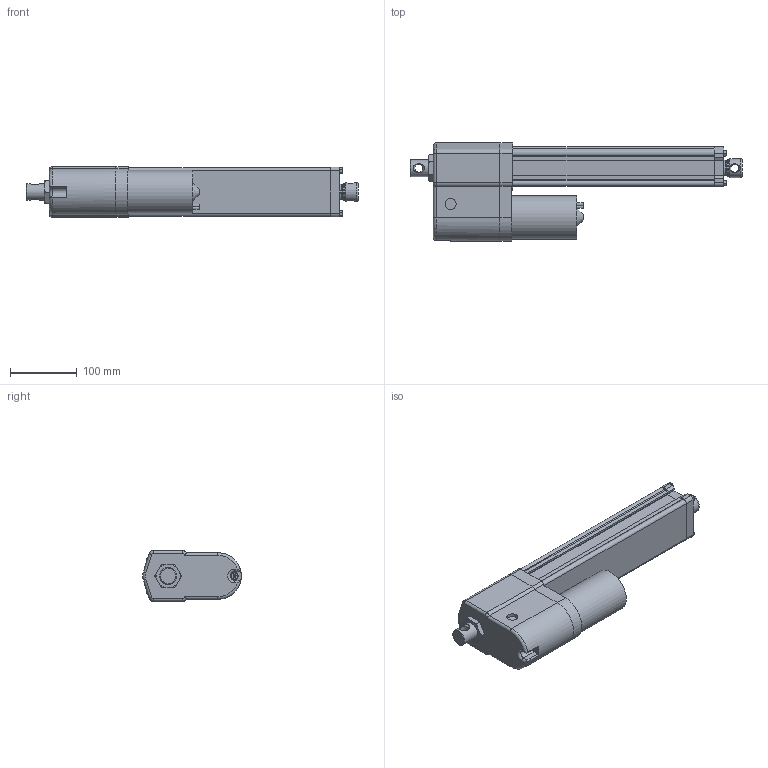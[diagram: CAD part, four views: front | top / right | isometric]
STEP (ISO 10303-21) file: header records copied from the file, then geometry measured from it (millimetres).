
FILE_DESCRIPTION( ( 'STEP AP203' ), '1' );
FILE_NAME( 'p:/temp/worker_343/temp/exporttempdir_696_1276_e8vW4/format_0/DA24-21B65M20M0NPO-AMM.stp', '2020-04-12T18:22:09', ( 'License CC BY-ND 4.0' ), ( 'CADENAS' ), ' ', 'PARTsolutions', ' ' );
FILE_SCHEMA( ( 'CONFIG_CONTROL_DESIGN' ) );
Length unit declared in the file: millimetre
Products named in the file (8): DA24-21B65M20M0NPO-AMM; _ELECTRAK-LA14-DA24-21B65MM0NPO-20M-EU-REAR; _Electrak-10-EU-RA-D602700; _D602768eu; _ELECTRAK-LA14-DA24--MOTOR; _DA24-21B65M20M0NPOAMMtube; _ELECTRAK-LA14-DA24--20-PLATE; _ELECTRAK-LA14-DA24--2021B65MNPOM-ROD
Assembly tree (7 placements, depth 2):
  DA24-21B65M20M0NPO-AMM
    _ELECTRAK-LA14-DA24-21B65MM0NPO-20M-EU-REAR
    _Electrak-10-EU-RA-D602700
    _D602768eu
    _ELECTRAK-LA14-DA24--MOTOR
    _DA24-21B65M20M0NPOAMMtube
    _ELECTRAK-LA14-DA24--20-PLATE
    _ELECTRAK-LA14-DA24--2021B65MNPOM-ROD
Bounding box: 498.95 x 148 x 76.2 mm (x, y, z)
Volume: 2061645 mm3; surface area: 364399.5 mm2
Topology: 7 solids, 8 shells, 378 faces, 942 edges, 611 vertices
Faces by surface type: plane 184, cylinder 131, cone 45, torus 14, bspline 4
Full cylindrical faces by diameter (mm): 4 x2, 4.126 x1, 4.8 x5, 5 x5, 5.6 x4, 7.878 x4, 9.398 x1, 12.2 x2, 16 x1, 16.5 x1, 21.8 x1, 25.2 x1, 25.4 x1, 26.24 x1, 28.5 x1, 28.6 x2, 47.625 x1, 65.3 x1
Entity records: 11834 total; most frequent: CARTESIAN_POINT 2729, DIRECTION 1869, ORIENTED_EDGE 1744, EDGE_CURVE 872, AXIS2_PLACEMENT_3D 702, VERTEX_POINT 602, EDGE_LOOP 485, LINE 465
